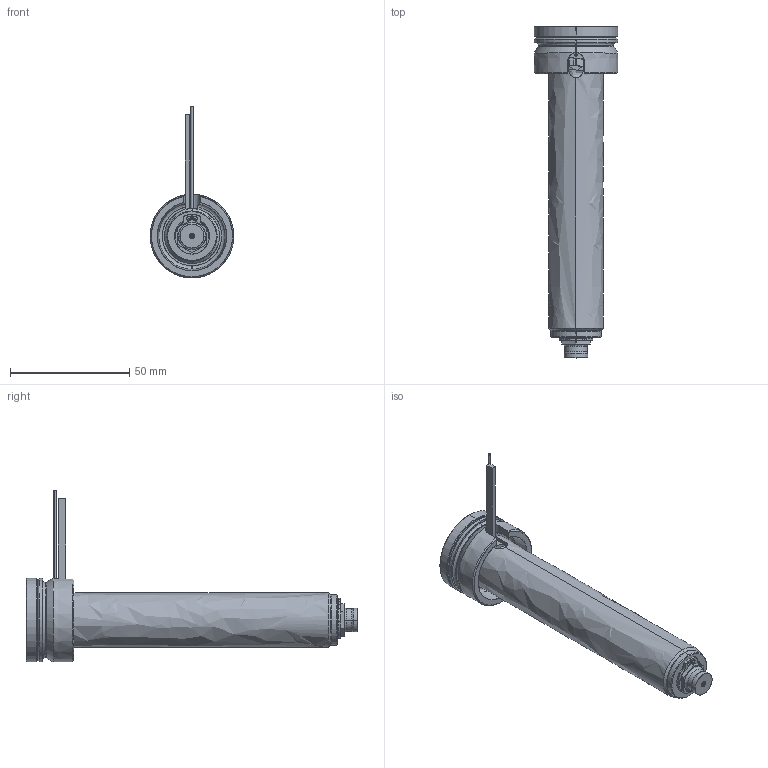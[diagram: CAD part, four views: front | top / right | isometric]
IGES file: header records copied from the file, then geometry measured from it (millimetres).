
Start section: SolidWorks IGES file using analytic representation for surfaces
Global section: file name: C:\Documents and Settings\ws-20\Desktop\TEM\UGEP3153-S-A-0 [Øf-1.10 P-0 ØC-7.0].IGS; native system: SolidWorks 2012; preprocessor: SolidWorks 2012; author: ws-20; date: 120404.082344; units: millimetre
Bounding box: 35 x 139 x 71.9 mm (x, y, z)
Surface area: 28232.8 mm2 (no closed solid volume)
Topology: 0 solids, 0 shells, 131 faces, 2074 edges, 2074 vertices
Faces by surface type: revolution 80, bspline 51
